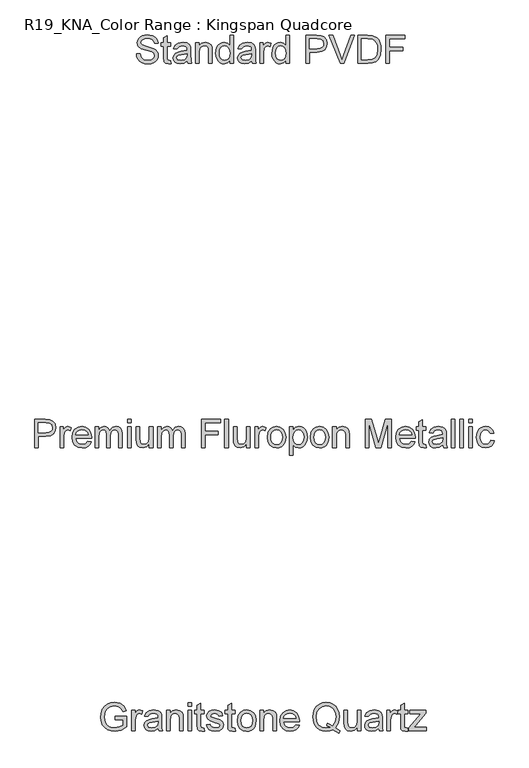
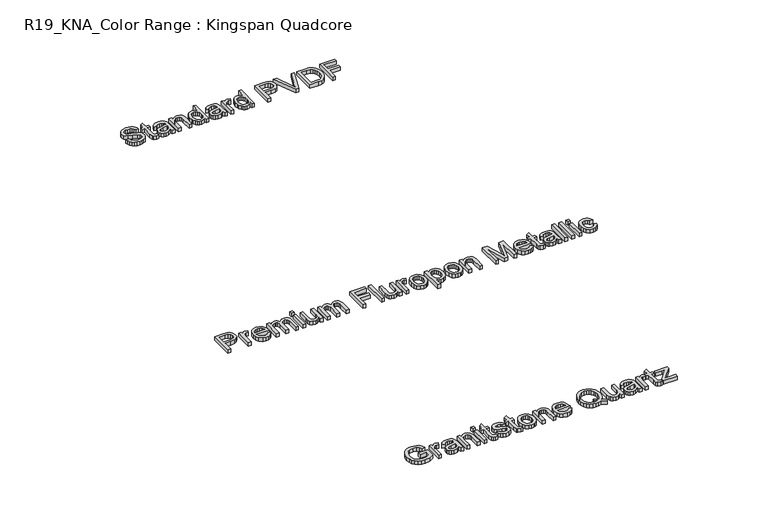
"""IFC4 building model written with IfcOpenShell, lengths in millimetres: proxy geometry, R19_KNA_Color Range : Kingspan Quadcore."""

from ifc_helpers import new_model, si_unit, origin, origin_with_axes, place, context, project, spatial, polyline, outline, extrude, source, transform, mapped, element, save


def r19_kna_color_range_kingspan_quadcore_4278cd54(model_context):
    return source(origin(), model_context, "Body", "SweptSolid", [
        extrude(outline(polyline([(-794.6251096, -3806.1388808), (-794.6251096, -3787.3033226), (-733.4095456, -3787.3033226), (-733.4095456, -3843.6260561), (-763.6310515, -3861.3947564), (-795.5816028, -3867.3544448), (-816.7118249, -3864.9862044), (-835.8094989, -3857.8814834), (-851.67441, -3846.288602), (-863.106343, -3830.4558807), (-870.017926, -3811.4639727), (-872.321787, -3790.3935314), (-870.027123, -3769.1713388), (-863.1431312, -3749.4298712), (-851.95492, -3732.8705829), (-836.747598, -3721.1949281), (-818.2247396, -3714.2695495), (-797.0899189, -3711.96109), (-767.6225711, -3717.313773), (-755.8733399, -3723.7149198), (-746.9659971, -3732.2129938), (-735.5800494, -3757.136999), (-752.9440795, -3762.0298296), (-761.5341241, -3744.6106171), (-776.2126157, -3734.5674386), (-797.3842245, -3730.7966482), (-821.4988893, -3734.8617442), (-837.9064263, -3745.5303221), (-847.6001169, -3760.0432668), (-853.4862288, -3789.6209792), (-851.7157967, -3807.6334014), (-846.4045004, -3822.4544473), (-837.7132883, -3833.9783508), (-825.8031087, -3842.0993458), (-811.8649796, -3846.9140014), (-797.0899189, -3848.5188866), (-771.3197852, -3843.6812384), (-752.2451037, -3833.3621484), (-752.2451037, -3806.1388808), (-794.6251096, -3806.1388808)])), origin_with_axes(), (0.0, 0.0, 1.0), 25.0),
        extrude(outline(polyline([(-705.1562084, -3865.0), (-705.1562084, -3754.3410959), (-688.675095, -3754.3410959), (-688.675095, -3770.7118446), (-676.9764475, -3755.6286828), (-665.2042237, -3751.9866511), (-646.2950891, -3757.7991866), (-652.5858712, -3774.6849702), (-665.8296231, -3770.8222092), (-676.4798068, -3774.5378174), (-683.2672296, -3784.8385133), (-686.3206502, -3806.8378566), (-686.3206502, -3865.0), (-705.1562084, -3865.0)])), origin_with_axes(), (0.0, 0.0, 1.0), 25.0),
        extrude(outline(polyline([(-563.8895222, -3850.8733314), (-582.1548633, -3863.6388366), (-602.3331907, -3867.3544448), (-618.0739416, -3865.1195616), (-629.685217, -3858.4149123), (-636.8451204, -3848.2337781), (-639.2317548, -3835.5694404), (-635.6265113, -3820.6702196), (-626.1535499, -3809.8544889), (-612.9649804, -3803.6740714), (-596.667808, -3800.84138), (-563.9998868, -3794.3666569), (-563.8895222, -3790.1728022), (-565.1863062, -3781.7666986), (-569.0766583, -3776.2668628), (-577.7770675, -3772.1833726), (-589.8987793, -3770.8222092), (-608.9550666, -3774.4458469), (-618.0417519, -3787.3033226), (-636.8773101, -3784.9488778), (-628.7287239, -3766.5547781), (-612.3211869, -3755.7758356), (-587.4707581, -3751.9866511), (-564.6436803, -3755.3343772), (-551.7494164, -3763.7404808), (-545.973669, -3776.5243802), (-545.0539641, -3793.0054935), (-545.0539641, -3816.4395766), (-544.0974709, -3849.1626801), (-540.3450745, -3865.0), (-559.1806327, -3865.0), (-563.8895222, -3850.8733314)]), holes=[polyline([(-563.8895222, -3813.2022151), (-594.276575, -3818.9779624), (-610.4817769, -3822.031383), (-617.8210227, -3826.9977899), (-620.3961967, -3834.2450652), (-614.7859962, -3844.4353965), (-598.323277, -3848.5188866), (-579.2669896, -3844.0123322), (-566.979731, -3833.104631), (-563.9998868, -3818.536504), (-563.8895222, -3813.2022151)])]), origin_with_axes(), (0.0, 0.0, 1.0), 25.0),
        extrude(outline(polyline([(-519.1550716, -3865.0), (-519.1550716, -3754.3410959), (-500.3195134, -3754.3410959), (-500.3195134, -3769.7921396), (-485.9169333, -3756.4380232), (-466.2536407, -3751.9866511), (-448.4665462, -3755.5735005), (-436.3264404, -3764.9912796), (-430.6794518, -3778.8420367), (-429.6861704, -3797.0521955), (-429.6861704, -3865.0), (-448.5217285, -3865.0), (-448.5217285, -3799.5905813), (-450.6922323, -3782.9255269), (-458.3625719, -3774.1147531), (-471.293624, -3770.8222092), (-482.3254854, -3772.6708163), (-491.7294689, -3778.2166373), (-498.1720023, -3788.9312004), (-500.3195134, -3806.2860336), (-500.3195134, -3865.0), (-519.1550716, -3865.0)])), origin_with_axes(), (0.0, 0.0, 1.0), 25.0),
        extrude(outline(polyline([(-403.7872779, -3865.0), (-403.7872779, -3754.3410959), (-384.9517198, -3754.3410959), (-384.9517198, -3865.0), (-403.7872779, -3865.0)])), origin_with_axes(), (0.0, 0.0, 1.0), 25.0),
        extrude(outline(polyline([(-403.7872779, -3733.1510929), (-403.7872779, -3714.3155348), (-384.9517198, -3714.3155348), (-384.9517198, -3733.1510929), (-403.7872779, -3733.1510929)])), origin_with_axes(), (0.0, 0.0, 1.0), 25.0),
        extrude(outline(polyline([(-316.6728214, -3849.2914388), (-314.3183767, -3865.551823), (-328.4082571, -3867.3544448), (-344.1903947, -3864.2274478), (-352.0630694, -3856.0236793), (-354.3439378, -3834.6497354), (-354.3439378, -3773.176654), (-368.4706064, -3773.176654), (-368.4706064, -3754.3410959), (-354.3439378, -3754.3410959), (-354.3439378, -3727.448922), (-335.5083796, -3716.3756739), (-335.5083796, -3754.3410959), (-316.6728214, -3754.3410959), (-316.6728214, -3773.176654), (-335.5083796, -3773.176654), (-335.5083796, -3834.0979124), (-334.5150982, -3843.8099971), (-331.2961308, -3847.2496937), (-324.8765899, -3848.5188866), (-316.6728214, -3849.2914388)])), origin_with_axes(), (0.0, 0.0, 1.0), 25.0),
        extrude(outline(polyline([(-304.9005976, -3832.0377732), (-286.0650394, -3829.6833285), (-283.0943923, -3837.7399442), (-277.3462362, -3843.6628443), (-257.3702438, -3848.5188866), (-238.1668037, -3844.0675145), (-231.9128098, -3833.6196658), (-233.4855053, -3828.8188058), (-238.2035919, -3825.1583799), (-257.590973, -3819.7873028), (-285.9546749, -3810.5718588), (-298.333904, -3799.8113105), (-302.5461528, -3784.6177841), (-299.1616385, -3770.5830859), (-289.9278004, -3759.8593258), (-277.9532415, -3754.2859136), (-261.7480396, -3751.9866511), (-238.8289913, -3755.6838651), (-224.2608643, -3765.6902554), (-217.7861411, -3782.5944331), (-236.6216993, -3784.9488778), (-243.7034277, -3774.5562115), (-260.2765116, -3770.8222092), (-278.3027294, -3774.3906646), (-283.7105947, -3782.7047977), (-281.4665145, -3788.1862394), (-274.4399684, -3792.343306), (-258.2163724, -3796.3532197), (-230.5700405, -3805.2191758), (-217.7309588, -3815.2623543), (-213.0772516, -3831.633103), (-218.5402992, -3849.6593208), (-234.3040427, -3862.7375257), (-257.6277612, -3867.3544448), (-276.6196692, -3865.1287587), (-290.4796234, -3858.4517005), (-299.7318556, -3847.3968465), (-304.9005976, -3832.0377732)])), origin_with_axes(), (0.0, 0.0, 1.0), 25.0),
        extrude(outline(polyline([(-151.8616876, -3849.2914388), (-149.5072428, -3865.551823), (-163.5971233, -3867.3544448), (-179.3792608, -3864.2274478), (-187.2519355, -3856.0236793), (-189.5328039, -3834.6497354), (-189.5328039, -3773.176654), (-203.6594725, -3773.176654), (-203.6594725, -3754.3410959), (-189.5328039, -3754.3410959), (-189.5328039, -3727.448922), (-170.6972458, -3716.3756739), (-170.6972458, -3754.3410959), (-151.8616876, -3754.3410959), (-151.8616876, -3773.176654), (-170.6972458, -3773.176654), (-170.6972458, -3834.0979124), (-169.7039644, -3843.8099971), (-166.4849969, -3847.2496937), (-160.0654561, -3848.5188866), (-151.8616876, -3849.2914388)])), origin_with_axes(), (0.0, 0.0, 1.0), 25.0),
        extrude(outline(polyline([(-137.735019, -3809.6705479), (-133.6607259, -3782.9899062), (-121.4378466, -3764.2371215), (-106.3362907, -3755.0492687), (-88.2548906, -3751.9866511), (-68.4674378, -3755.7160548), (-52.6623076, -3766.904266), (-42.3018309, -3784.6683678), (-38.8483387, -3808.1254435), (-40.375049, -3827.1541397), (-44.9551798, -3841.6394933), (-52.455374, -3852.4874136), (-62.7422743, -3860.6038102), (-74.960555, -3865.6667861), (-88.2548906, -3867.3544448), (-108.2814668, -3863.6388366), (-124.0682029, -3852.4920122), (-134.318315, -3834.3554298), (-137.735019, -3809.6705479)]), holes=[polyline([(-118.8994608, -3809.6337597), (-116.71976, -3826.6804917), (-110.1806576, -3838.825196), (-100.3398142, -3846.095464), (-88.2548906, -3848.5188866), (-76.2251494, -3846.0816684), (-66.4027001, -3838.7700137), (-59.8635977, -3826.464361), (-57.6838968, -3809.0451485), (-59.8773932, -3792.4950573), (-66.4578824, -3780.5158998), (-76.2941273, -3773.2456319), (-88.2548906, -3770.8222092), (-100.3398142, -3773.2364348), (-110.1806576, -3780.4791116), (-116.71976, -3792.5962248), (-118.8994608, -3809.6337597)])]), origin_with_axes(), (0.0, 0.0, 1.0), 25.0),
        extrude(outline(polyline([(-17.6583358, -3865.0), (-17.6583358, -3754.3410959), (1.1772224, -3754.3410959), (1.1772224, -3769.7921396), (15.5798025, -3756.4380232), (35.2430951, -3751.9866511), (53.0301896, -3755.5735005), (65.1702954, -3764.9912796), (70.8172841, -3778.8420367), (71.8105655, -3797.0521955), (71.8105655, -3865.0), (52.9750073, -3865.0), (52.9750073, -3799.5905813), (50.8045035, -3782.9255269), (43.1341639, -3774.1147531), (30.2031118, -3770.8222092), (19.1712505, -3772.6708163), (9.767267, -3778.2166373), (3.3247335, -3788.9312004), (1.1772224, -3806.2860336), (1.1772224, -3865.0), (-17.6583358, -3865.0)])), origin_with_axes(), (0.0, 0.0, 1.0), 25.0),
        extrude(outline(polyline([(175.1854061, -3832.0377732), (193.6530823, -3834.392218), (186.9990167, -3848.3073545), (176.3810226, -3858.7092179), (162.0382233, -3865.193138), (144.2097421, -3867.3544448), (122.1092312, -3863.625041), (105.103886, -3852.4368299), (94.2605642, -3834.5163782), (90.6461236, -3810.5902529), (94.2973524, -3785.8593858), (105.2510388, -3767.3641185), (122.0264578, -3755.8310179), (143.1428843, -3751.9866511), (163.6017218, -3755.8218209), (179.9494779, -3767.3273303), (190.6686396, -3785.7858094), (194.2416935, -3810.4798883), (194.1313289, -3815.5566598), (109.4816818, -3815.5566598), (112.7420359, -3829.6557373), (120.3158065, -3840.0208125), (131.2465003, -3846.3943681), (144.5776241, -3848.5188866), (163.0453003, -3844.5825493), (175.1854061, -3832.0377732)]), holes=[polyline([(109.4816818, -3796.7211017), (175.4061353, -3796.7211017), (172.8585525, -3786.7698937), (167.8645544, -3779.6513771), (156.8832768, -3773.0295012), (143.0693079, -3770.8222092), (130.3727806, -3772.5834443), (119.8743481, -3777.8671494), (112.576489, -3786.1031076), (109.4816818, -3796.7211017)])]), origin_with_axes(), (0.0, 0.0, 1.0), 25.0),
        extrude(outline(polyline([(387.4901055, -3846.936994), (410.8506122, -3862.6455552), (405.7738407, -3876.4411301), (374.7613885, -3858.8195825), (357.332979, -3865.2207292), (338.15713, -3867.3544448), (318.8893105, -3864.8942339), (301.479295, -3857.5136014), (286.8973725, -3845.6769982), (276.1138315, -3829.8488754), (269.4505688, -3810.8983541), (267.2294813, -3789.6945556), (269.4459703, -3768.472363), (276.0954374, -3749.2459302), (286.8375916, -3733.1924797), (301.3321422, -3721.4892337), (318.6777783, -3714.3431259), (337.973189, -3711.96109), (357.4203509, -3714.3983082), (374.853359, -3721.7099629), (389.324917, -3733.4086103), (399.8877288, -3749.0068069), (406.3440578, -3767.6768182), (408.4961674, -3788.5909096), (403.2722431, -3821.5163482), (396.7147465, -3835.1739672), (387.4901055, -3846.936994)]), holes=[polyline([(343.3442661, -3821.8842302), (359.181586, -3827.8715096), (371.9654853, -3836.1948398), (385.2368283, -3816.7706704), (389.6606093, -3789.5474028), (388.0971108, -3772.9697204), (383.4066154, -3758.6269211), (375.7040861, -3746.8822884), (365.1044861, -3738.0991058), (352.3251853, -3732.6222626), (338.0835536, -3730.7966482), (317.5557382, -3734.4892637), (300.8538957, -3745.5671103), (289.7622535, -3763.9750056), (286.0650394, -3789.6577674), (289.7208668, -3814.7887062), (300.6883488, -3833.3069661), (317.3396076, -3844.7159065), (338.0467654, -3848.5188866), (358.3170633, -3844.6561257), (338.4882238, -3836.3052044), (343.3442661, -3821.8842302)])]), origin_with_axes(), (0.0, 0.0, 1.0), 25.0),
        extrude(outline(polyline([(505.028403, -3865.0), (505.028403, -3845.9805008), (490.276335, -3862.0109588), (471.0361066, -3867.3544448), (453.3225886, -3863.6020484), (441.1089063, -3854.1842693), (435.4987059, -3840.3151181), (434.3950599, -3822.8039352), (434.3950599, -3754.3410959), (453.2306181, -3754.3410959), (453.2306181, -3813.9379791), (454.3710522, -3833.1414192), (461.8206626, -3844.4170024), (475.8553608, -3848.5188866), (491.5823161, -3844.3250319), (501.9749824, -3832.9022959), (505.028403, -3811.9146281), (505.028403, -3754.3410959), (523.8639611, -3754.3410959), (523.8639611, -3865.0), (505.028403, -3865.0)])), origin_with_axes(), (0.0, 0.0, 1.0), 25.0),
        extrude(outline(polyline([(620.3961967, -3850.8733314), (602.1308556, -3863.6388366), (581.9525282, -3867.3544448), (566.2117773, -3865.1195616), (554.6005018, -3858.4149123), (547.4405985, -3848.2337781), (545.0539641, -3835.5694404), (548.6592076, -3820.6702196), (558.132169, -3809.8544889), (571.3207385, -3803.6740714), (587.6179109, -3800.84138), (620.2858321, -3794.3666569), (620.3961967, -3790.1728022), (619.0994126, -3781.7666986), (615.2090605, -3776.2668628), (606.5086513, -3772.1833726), (594.3869396, -3770.8222092), (575.3306523, -3774.4458469), (566.243967, -3787.3033226), (547.4084088, -3784.9488778), (555.556995, -3766.5547781), (571.964532, -3755.7758356), (596.8149608, -3751.9866511), (619.6420386, -3755.3343772), (632.5363025, -3763.7404808), (638.3120498, -3776.5243802), (639.2317548, -3793.0054935), (639.2317548, -3816.4395766), (640.188248, -3849.1626801), (643.9406444, -3865.0), (625.1050862, -3865.0), (620.3961967, -3850.8733314)]), holes=[polyline([(620.3961967, -3813.2022151), (590.0091439, -3818.9779624), (573.803942, -3822.031383), (566.4646962, -3826.9977899), (563.8895222, -3834.2450652), (569.4997226, -3844.4353965), (585.9624419, -3848.5188866), (605.0187293, -3844.0123322), (617.3059879, -3833.104631), (620.2858321, -3818.536504), (620.3961967, -3813.2022151)])]), origin_with_axes(), (0.0, 0.0, 1.0), 25.0),
        extrude(outline(polyline([(665.1306473, -3865.0), (665.1306473, -3754.3410959), (681.6117607, -3754.3410959), (681.6117607, -3770.7118446), (693.3104081, -3755.6286828), (705.082632, -3751.9866511), (723.9917665, -3757.7991866), (717.7009844, -3774.6849702), (704.4572326, -3770.8222092), (693.8070488, -3774.5378174), (687.019626, -3784.8385133), (683.9662054, -3806.8378566), (683.9662054, -3865.0), (665.1306473, -3865.0)])), origin_with_axes(), (0.0, 0.0, 1.0), 25.0),
        extrude(outline(polyline([(775.7895514, -3849.2914388), (778.1439962, -3865.551823), (764.0541158, -3867.3544448), (748.2719782, -3864.2274478), (740.3993035, -3856.0236793), (738.1184351, -3834.6497354), (738.1184351, -3773.176654), (723.9917665, -3773.176654), (723.9917665, -3757.7991866), (723.9917665, -3754.3410959), (738.1184351, -3754.3410959), (738.1184351, -3727.448922), (756.9539933, -3716.3756739), (756.9539933, -3754.3410959), (775.7895514, -3754.3410959), (775.7895514, -3773.176654), (756.9539933, -3773.176654), (756.9539933, -3834.0979124), (757.9472747, -3843.8099971), (761.1662421, -3847.2496937), (767.5857829, -3848.5188866), (775.7895514, -3849.2914388)])), origin_with_axes(), (0.0, 0.0, 1.0), 25.0),
        extrude(outline(polyline([(782.8528857, -3865.0), (782.8528857, -3847.2680878), (847.8576343, -3773.176654), (828.6174059, -3773.176654), (787.5617753, -3773.176654), (787.5617753, -3754.3410959), (874.6762317, -3754.3410959), (874.6762317, -3770.3439626), (817.0291231, -3836.0844752), (808.1999552, -3846.1644418), (829.9785693, -3846.1644418), (877.0306765, -3846.1644418), (877.0306765, -3865.0), (782.8528857, -3865.0)])), origin_with_axes(), (0.0, 0.0, 1.0), 25.0),
        extrude(outline(polyline([(-1225.4885023, -2345.0), (-1225.4885023, -2194.3155348), (-1169.6440155, -2194.3155348), (-1147.1296374, -2195.7502746), (-1128.8275081, -2202.7952148), (-1116.9633138, -2217.3633418), (-1112.4751534, -2237.9095512), (-1115.5055813, -2255.6690545), (-1124.5968652, -2270.4671078), (-1141.5976119, -2280.4551039), (-1168.3564285, -2283.784436), (-1206.6529442, -2283.784436), (-1206.6529442, -2345.0), (-1225.4885023, -2345.0)]), holes=[polyline([(-1206.6529442, -2264.9488778), (-1167.2527825, -2264.9488778), (-1150.5509399, -2263.2198325), (-1139.5144801, -2258.0326963), (-1133.3616537, -2249.7093662), (-1131.3107116, -2238.5717388), (-1136.1483598, -2222.9735422), (-1148.8586827, -2214.4386799), (-1167.6942409, -2213.1510929), (-1206.6529442, -2213.1510929), (-1206.6529442, -2264.9488778)])]), origin_with_axes(), (0.0, 0.0, 1.0), 25.0),
        extrude(outline(polyline([(-1088.9307057, -2345.0), (-1088.9307057, -2234.3410959), (-1072.4495923, -2234.3410959), (-1072.4495923, -2250.7118446), (-1060.7509449, -2235.6286828), (-1048.978721, -2231.9866511), (-1030.0695865, -2237.7991866), (-1036.3603686, -2254.6849702), (-1049.6041204, -2250.8222092), (-1060.2543042, -2254.5378174), (-1067.041727, -2264.8385133), (-1070.0951476, -2286.8378566), (-1070.0951476, -2345.0), (-1088.9307057, -2345.0)])), origin_with_axes(), (0.0, 0.0, 1.0), 25.0),
        extrude(outline(polyline([(-940.8214145, -2312.0377732), (-922.3537383, -2314.392218), (-929.0078039, -2328.3073545), (-939.625798, -2338.7092179), (-953.9685973, -2345.193138), (-971.7970785, -2347.3544448), (-993.8975893, -2343.625041), (-1010.9029345, -2332.4368299), (-1021.7462564, -2314.5163782), (-1025.360697, -2290.5902529), (-1021.7094682, -2265.8593858), (-1010.7557817, -2247.3641185), (-993.9803628, -2235.8310179), (-972.8639362, -2231.9866511), (-952.4050988, -2235.8218209), (-936.0573426, -2247.3273303), (-925.338181, -2265.7858094), (-921.7651271, -2290.4798883), (-921.8754917, -2295.5566598), (-1006.5251388, -2295.5566598), (-1003.2647846, -2309.6557373), (-995.691014, -2320.0208125), (-984.7603203, -2326.3943681), (-971.4291965, -2328.5188866), (-952.9615203, -2324.5825493), (-940.8214145, -2312.0377732)]), holes=[polyline([(-1006.5251388, -2276.7211017), (-940.6006853, -2276.7211017), (-943.1482681, -2266.7698937), (-948.1422662, -2259.6513771), (-959.1235437, -2253.0295012), (-972.9375126, -2250.8222092), (-985.63404, -2252.5834443), (-996.1324724, -2257.8671494), (-1003.4303315, -2266.1031076), (-1006.5251388, -2276.7211017)])]), origin_with_axes(), (0.0, 0.0, 1.0), 25.0),
        extrude(outline(polyline([(-902.929569, -2345.0), (-902.929569, -2234.3410959), (-884.0940108, -2234.3410959), (-884.0940108, -2252.5512546), (-871.1445646, -2237.6336397), (-852.7136766, -2231.9866511), (-842.2382368, -2233.4259894), (-833.8413303, -2237.7440043), (-823.467058, -2253.8756298), (-808.7701723, -2237.4588958), (-790.2105256, -2231.9866511), (-776.0516674, -2234.2629209), (-765.5808261, -2241.0917305), (-759.1107015, -2252.6570207), (-756.9539933, -2269.1427326), (-756.9539933, -2345.0), (-775.7895514, -2345.0), (-775.7895514, -2277.2361365), (-777.5369909, -2261.5091812), (-783.8645612, -2253.7652652), (-794.6251096, -2250.8222092), (-804.8292364, -2252.7076045), (-813.147968, -2258.3637901), (-818.6799935, -2268.1770424), (-820.524002, -2282.5336372), (-820.524002, -2345.0), (-839.3595602, -2345.0), (-839.3595602, -2275.1392091), (-843.7189618, -2256.8922622), (-849.4717165, -2252.3397225), (-858.0111774, -2250.8222092), (-871.953905, -2254.8689112), (-881.2245312, -2266.7147114), (-884.0940108, -2289.1923013), (-884.0940108, -2345.0), (-902.929569, -2345.0)])), origin_with_axes(), (0.0, 0.0, 1.0), 25.0),
        extrude(outline(polyline([(-728.700656, -2345.0), (-728.700656, -2234.3410959), (-709.8650979, -2234.3410959), (-709.8650979, -2345.0), (-728.700656, -2345.0)])), origin_with_axes(), (0.0, 0.0, 1.0), 25.0),
        extrude(outline(polyline([(-728.700656, -2213.1510929), (-728.700656, -2194.3155348), (-709.8650979, -2194.3155348), (-709.8650979, -2213.1510929), (-728.700656, -2213.1510929)])), origin_with_axes(), (0.0, 0.0, 1.0), 25.0),
        extrude(outline(polyline([(-610.9784176, -2345.0), (-610.9784176, -2325.9805008), (-625.7304856, -2342.0109588), (-644.9707139, -2347.3544448), (-662.684232, -2343.6020484), (-674.8979143, -2334.1842693), (-680.5081147, -2320.3151181), (-681.6117607, -2302.8039352), (-681.6117607, -2234.3410959), (-662.7762025, -2234.3410959), (-662.7762025, -2293.9379791), (-661.6357683, -2313.1414192), (-654.1861579, -2324.4170024), (-640.1514598, -2328.5188866), (-624.4245045, -2324.3250319), (-614.0318381, -2312.9022959), (-610.9784176, -2291.9146281), (-610.9784176, -2234.3410959), (-592.1428594, -2234.3410959), (-592.1428594, -2345.0), (-610.9784176, -2345.0)])), origin_with_axes(), (0.0, 0.0, 1.0), 25.0),
        extrude(outline(polyline([(-566.243967, -2345.0), (-566.243967, -2234.3410959), (-547.4084088, -2234.3410959), (-547.4084088, -2252.5512546), (-534.4589626, -2237.6336397), (-516.0280746, -2231.9866511), (-505.5526348, -2233.4259894), (-497.1557283, -2237.7440043), (-486.781456, -2253.8756298), (-472.0845703, -2237.4588958), (-453.5249237, -2231.9866511), (-439.3660654, -2234.2629209), (-428.8952241, -2241.0917305), (-422.4250995, -2252.6570207), (-420.2683913, -2269.1427326), (-420.2683913, -2345.0), (-439.1039494, -2345.0), (-439.1039494, -2277.2361365), (-440.8513889, -2261.5091812), (-447.1789592, -2253.7652652), (-457.9395076, -2250.8222092), (-468.1436344, -2252.7076045), (-476.4623661, -2258.3637901), (-481.9943916, -2268.1770424), (-483.8384001, -2282.5336372), (-483.8384001, -2345.0), (-502.6739582, -2345.0), (-502.6739582, -2275.1392091), (-507.0333599, -2256.8922622), (-512.7861146, -2252.3397225), (-521.3255754, -2250.8222092), (-535.268303, -2254.8689112), (-544.5389293, -2266.7147114), (-547.4084088, -2289.1923013), (-547.4084088, -2345.0), (-566.243967, -2345.0)])), origin_with_axes(), (0.0, 0.0, 1.0), 25.0),
        extrude(outline(polyline([(-330.7994901, -2345.0), (-330.7994901, -2194.3155348), (-229.558365, -2194.3155348), (-229.558365, -2213.1510929), (-311.9639319, -2213.1510929), (-311.9639319, -2257.8855435), (-241.3305888, -2257.8855435), (-241.3305888, -2276.7211017), (-311.9639319, -2276.7211017), (-311.9639319, -2345.0), (-330.7994901, -2345.0)])), origin_with_axes(), (0.0, 0.0, 1.0), 25.0),
        extrude(outline(polyline([(-206.0139173, -2345.0), (-206.0139173, -2194.3155348), (-187.1783591, -2194.3155348), (-187.1783591, -2345.0), (-206.0139173, -2345.0)])), origin_with_axes(), (0.0, 0.0, 1.0), 25.0),
        extrude(outline(polyline([(-88.2916788, -2345.0), (-88.2916788, -2325.9805008), (-103.0437468, -2342.0109588), (-122.2839752, -2347.3544448), (-139.9974933, -2343.6020484), (-152.2111755, -2334.1842693), (-157.8213759, -2320.3151181), (-158.9250219, -2302.8039352), (-158.9250219, -2234.3410959), (-140.0894638, -2234.3410959), (-140.0894638, -2293.9379791), (-138.9490296, -2313.1414192), (-131.4994192, -2324.4170024), (-117.4647211, -2328.5188866), (-101.7377658, -2324.3250319), (-91.3450994, -2312.9022959), (-88.2916788, -2291.9146281), (-88.2916788, -2234.3410959), (-69.4561207, -2234.3410959), (-69.4561207, -2345.0), (-88.2916788, -2345.0)])), origin_with_axes(), (0.0, 0.0, 1.0), 25.0),
        extrude(outline(polyline([(-43.5572282, -2345.0), (-43.5572282, -2234.3410959), (-27.0761148, -2234.3410959), (-27.0761148, -2250.7118446), (-15.3774674, -2235.6286828), (-3.6052436, -2231.9866511), (15.303891, -2237.7991866), (9.0131089, -2254.6849702), (-4.2306429, -2250.8222092), (-14.8808267, -2254.5378174), (-21.6682495, -2264.8385133), (-24.7216701, -2286.8378566), (-24.7216701, -2345.0), (-43.5572282, -2345.0)])), origin_with_axes(), (0.0, 0.0, 1.0), 25.0),
        extrude(outline(polyline([(22.3672253, -2289.6705479), (26.4415184, -2262.9899062), (38.6643977, -2244.2371215), (53.7659536, -2235.0492687), (71.8473537, -2231.9866511), (91.6348065, -2235.7160548), (107.4399367, -2246.904266), (117.8004134, -2264.6683678), (121.2539056, -2288.1254435), (119.7271953, -2307.1541397), (115.1470645, -2321.6394933), (107.6468703, -2332.4874136), (97.35997, -2340.6038102), (85.1416893, -2345.6667861), (71.8473537, -2347.3544448), (51.8207775, -2343.6388366), (36.0340414, -2332.4920122), (25.7839293, -2314.3554298), (22.3672253, -2289.6705479)]), holes=[polyline([(41.2027835, -2289.6337597), (43.3824843, -2306.6804917), (49.9215867, -2318.825196), (59.7624301, -2326.095464), (71.8473537, -2328.5188866), (83.8770949, -2326.0816684), (93.6995442, -2318.7700137), (100.2386466, -2306.464361), (102.4183475, -2289.0451485), (100.2248511, -2272.4950573), (93.6443619, -2260.5158998), (83.808117, -2253.2456319), (71.8473537, -2250.8222092), (59.7624301, -2253.2364348), (49.9215867, -2260.4791116), (43.3824843, -2272.5962248), (41.2027835, -2289.6337597)])]), origin_with_axes(), (0.0, 0.0, 1.0), 25.0),
        extrude(outline(polyline([(142.4439085, -2387.3800058), (142.4439085, -2234.3410959), (161.2794667, -2234.3410959), (161.2794667, -2252.808772), (174.3024893, -2237.1921813), (191.8872487, -2231.9866511), (204.6251628, -2233.807667), (215.7627902, -2239.2707146), (224.8310814, -2248.0447002), (231.3609868, -2259.7985299), (236.6216993, -2288.8244193), (235.1363757, -2304.9330522), (230.6804051, -2319.3402308), (223.3963416, -2331.3147898), (213.4267395, -2340.1255636), (201.815464, -2345.5472245), (189.6063803, -2347.3544448), (173.2172374, -2342.5167965), (161.2794667, -2330.2847202), (161.2794667, -2387.3800058), (142.4439085, -2387.3800058)]), holes=[polyline([(161.2794667, -2290.5534647), (163.3166132, -2307.4392483), (169.4280529, -2319.2482603), (178.4457603, -2326.20123), (189.2017101, -2328.5188866), (200.1324039, -2326.1184566), (209.3800376, -2318.9171665), (215.6846152, -2306.6758932), (217.7861411, -2289.1555131), (215.735199, -2272.3617001), (209.5823727, -2260.3871411), (200.5784608, -2253.2134422), (189.9742623, -2250.8222092), (179.3286771, -2253.3651935), (169.9798759, -2260.9941464), (163.454569, -2273.4699446), (161.2794667, -2290.5534647)])]), origin_with_axes(), (0.0, 0.0, 1.0), 25.0),
        extrude(outline(polyline([(253.1028127, -2289.6705479), (257.1771058, -2262.9899062), (269.3999851, -2244.2371215), (284.501541, -2235.0492687), (302.582941, -2231.9866511), (322.3703938, -2235.7160548), (338.1755241, -2246.904266), (348.5360008, -2264.6683678), (351.989493, -2288.1254435), (350.4627827, -2307.1541397), (345.8826519, -2321.6394933), (338.3824577, -2332.4874136), (328.0955574, -2340.6038102), (315.8772766, -2345.6667861), (302.582941, -2347.3544448), (282.5563649, -2343.6388366), (266.7696288, -2332.4920122), (256.5195167, -2314.3554298), (253.1028127, -2289.6705479)]), holes=[polyline([(271.9383708, -2289.6337597), (274.1180717, -2306.6804917), (280.6571741, -2318.825196), (290.4980175, -2326.095464), (302.582941, -2328.5188866), (314.6126823, -2326.0816684), (324.4351315, -2318.7700137), (330.974234, -2306.464361), (333.1539348, -2289.0451485), (330.9604384, -2272.4950573), (324.3799492, -2260.5158998), (314.5437044, -2253.2456319), (302.582941, -2250.8222092), (290.4980175, -2253.2364348), (280.6571741, -2260.4791116), (274.1180717, -2272.5962248), (271.9383708, -2289.6337597)])]), origin_with_axes(), (0.0, 0.0, 1.0), 25.0),
        extrude(outline(polyline([(373.1794959, -2345.0), (373.1794959, -2234.3410959), (392.0150541, -2234.3410959), (392.0150541, -2249.7921396), (406.4176342, -2236.4380232), (426.0809268, -2231.9866511), (443.8680213, -2235.5735005), (456.0081271, -2244.9912796), (461.6551157, -2258.8420367), (462.6483971, -2277.0521955), (462.6483971, -2345.0), (443.812839, -2345.0), (443.812839, -2279.5905813), (441.6423352, -2262.9255269), (433.9719956, -2254.1147531), (421.0409435, -2250.8222092), (410.0090821, -2252.6708163), (400.6050986, -2258.2166373), (394.1625652, -2268.9312004), (392.0150541, -2286.2860336), (392.0150541, -2345.0), (373.1794959, -2345.0)])), origin_with_axes(), (0.0, 0.0, 1.0), 25.0),
        extrude(outline(polyline([(549.7628536, -2345.0), (549.7628536, -2194.3155348), (582.1732574, -2194.3155348), (613.0017686, -2300.5230668), (619.2189743, -2322.7063511), (625.9512148, -2298.6836568), (656.2646912, -2194.3155348), (688.675095, -2194.3155348), (688.675095, -2345.0), (669.8395368, -2345.0), (669.8395368, -2213.1510929), (631.9844795, -2345.0), (606.453469, -2345.0), (568.5984117, -2213.1510929), (568.5984117, -2345.0), (549.7628536, -2345.0)])), origin_with_axes(), (0.0, 0.0, 1.0), 25.0),
        extrude(outline(polyline([(796.7588252, -2312.0377732), (815.2265013, -2314.392218), (808.5724357, -2328.3073545), (797.9544416, -2338.7092179), (783.6116424, -2345.193138), (765.7831612, -2347.3544448), (743.6826503, -2343.625041), (726.6773051, -2332.4368299), (715.8339833, -2314.5163782), (712.2195427, -2290.5902529), (715.8707715, -2265.8593858), (726.8244579, -2247.3641185), (743.5998769, -2235.8310179), (764.7163034, -2231.9866511), (785.1751408, -2235.8218209), (801.522897, -2247.3273303), (812.2420586, -2265.7858094), (815.8151125, -2290.4798883), (815.7047479, -2295.5566598), (731.0551008, -2295.5566598), (734.315455, -2309.6557373), (741.8892256, -2320.0208125), (752.8199194, -2326.3943681), (766.1510432, -2328.5188866), (784.6187193, -2324.5825493), (796.7588252, -2312.0377732)]), holes=[polyline([(731.0551008, -2276.7211017), (796.9795544, -2276.7211017), (794.4319715, -2266.7698937), (789.4379734, -2259.6513771), (778.4566959, -2253.0295012), (764.642727, -2250.8222092), (751.9461996, -2252.5834443), (741.4477672, -2257.8671494), (734.1499081, -2266.1031076), (731.0551008, -2276.7211017)])]), origin_with_axes(), (0.0, 0.0, 1.0), 25.0),
        extrude(outline(polyline([(874.6762317, -2329.2914388), (877.0306765, -2345.551823), (862.9407961, -2347.3544448), (847.1586585, -2344.2274478), (839.2859838, -2336.0236793), (837.0051154, -2314.6497354), (837.0051154, -2253.176654), (822.8784468, -2253.176654), (822.8784468, -2234.3410959), (837.0051154, -2234.3410959), (837.0051154, -2207.448922), (855.8406736, -2196.3756739), (855.8406736, -2234.3410959), (874.6762317, -2234.3410959), (874.6762317, -2253.176654), (855.8406736, -2253.176654), (855.8406736, -2314.0979124), (856.833955, -2323.8099971), (860.0529224, -2327.2496937), (866.4724632, -2328.5188866), (874.6762317, -2329.2914388)])), origin_with_axes(), (0.0, 0.0, 1.0), 25.0),
        extrude(outline(polyline([(964.145133, -2330.8733314), (945.8797919, -2343.6388366), (925.7014645, -2347.3544448), (909.9607136, -2345.1195616), (898.3494381, -2338.4149123), (891.1895348, -2328.2337781), (888.8029003, -2315.5694404), (892.4081439, -2300.6702196), (901.8811053, -2289.8544889), (915.0696748, -2283.6740714), (931.3668472, -2280.84138), (964.0347684, -2274.3666569), (964.145133, -2270.1728022), (962.8483489, -2261.7666986), (958.9579968, -2256.2668628), (950.2575876, -2252.1833726), (938.1358759, -2250.8222092), (919.0795886, -2254.4458469), (909.9929033, -2267.3033226), (891.1573451, -2264.9488778), (899.3059313, -2246.5547781), (915.7134683, -2235.7758356), (940.5638971, -2231.9866511), (963.3909749, -2235.3343772), (976.2852388, -2243.7404808), (982.0609861, -2256.5243802), (982.9806911, -2273.0054935), (982.9806911, -2296.4395766), (983.9371843, -2329.1626801), (987.6895807, -2345.0), (968.8540225, -2345.0), (964.145133, -2330.8733314)]), holes=[polyline([(964.145133, -2293.2022151), (933.7580802, -2298.9779624), (917.5528783, -2302.031383), (910.2136325, -2306.9977899), (907.6384585, -2314.2450652), (913.2486589, -2324.4353965), (929.7113782, -2328.5188866), (948.7676656, -2324.0123322), (961.0549242, -2313.104631), (964.0347684, -2298.536504), (964.145133, -2293.2022151)])]), origin_with_axes(), (0.0, 0.0, 1.0), 25.0),
        extrude(outline(polyline([(1008.8795836, -2345.0), (1008.8795836, -2194.3155348), (1027.7151417, -2194.3155348), (1027.7151417, -2345.0), (1008.8795836, -2345.0)])), origin_with_axes(), (0.0, 0.0, 1.0), 25.0),
        extrude(outline(polyline([(1055.968479, -2345.0), (1055.968479, -2194.3155348), (1074.8040371, -2194.3155348), (1074.8040371, -2345.0), (1055.968479, -2345.0)])), origin_with_axes(), (0.0, 0.0, 1.0), 25.0),
        extrude(outline(polyline([(1103.0573743, -2213.1510929), (1103.0573743, -2194.3155348), (1121.8929325, -2194.3155348), (1121.8929325, -2213.1510929), (1103.0573743, -2213.1510929)])), origin_with_axes(), (0.0, 0.0, 1.0), 25.0),
        extrude(outline(polyline([(1103.0573743, -2345.0), (1103.0573743, -2234.3410959), (1121.8929325, -2234.3410959), (1121.8929325, -2345.0), (1103.0573743, -2345.0)])), origin_with_axes(), (0.0, 0.0, 1.0), 25.0),
        extrude(outline(polyline([(1220.7796128, -2304.9744389), (1239.6151709, -2307.3288837), (1234.3636555, -2324.08131), (1224.4952209, -2336.7410492), (1210.9387694, -2344.7010959), (1194.6232029, -2347.3544448), (1174.5874298, -2343.6526322), (1158.9202553, -2332.5471945), (1148.808099, -2314.5255752), (1145.4373802, -2290.0752181), (1146.8767185, -2273.3135947), (1151.1947334, -2258.7868544), (1158.4604028, -2247.0560173), (1168.7427046, -2238.6821034), (1181.0437588, -2233.6605142), (1194.3656855, -2231.9866511), (1210.2811804, -2234.2859136), (1223.0052989, -2241.183701), (1232.1333709, -2252.3121313), (1237.2607262, -2267.3033226), (1218.425168, -2269.6577674), (1209.6879706, -2255.5494929), (1194.5128383, -2250.8222092), (1182.3405428, -2253.1490629), (1172.6790419, -2260.1296237), (1166.3744642, -2272.1409709), (1164.2729383, -2289.5601833), (1166.328479, -2307.2139206), (1172.4951009, -2319.2666544), (1181.9818579, -2326.2058286), (1193.9978035, -2328.5188866), (1203.7512749, -2327.0749498), (1211.7481098, -2322.7431393), (1217.5652439, -2315.4130905), (1220.7796128, -2304.9744389)])), origin_with_axes(), (0.0, 0.0, 1.0), 25.0),
        extrude(outline(polyline([(-680.4600994, -233.2022151), (-661.6245412, -233.2022151), (-655.5544883, -252.0561673), (-640.7288439, -263.975544), (-618.1408894, -268.5188866), (-598.4592026, -265.07919), (-585.7488797, -255.6246227), (-581.5734191, -242.9878762), (-584.700416, -231.2340464), (-597.5027094, -222.68079), (-624.9283122, -215.488697), (-654.4508423, -206.1996766), (-670.4721032, -192.1833726), (-675.7512098, -173.4581791), (-674.1187335, -162.4263177), (-669.2213044, -152.1394174), (-661.1876813, -143.4206142), (-650.146623, -137.0930438), (-622.2243795, -131.96109), (-592.4259379, -137.3321671), (-581.003202, -143.9632401), (-572.5603102, -153.1143047), (-567.2168242, -164.2151439), (-565.0923057, -176.6955406), (-583.9278638, -176.6955406), (-587.3859546, -165.4567457), (-594.5964417, -157.3449477), (-605.8628278, -152.433723), (-621.4886155, -150.7966482), (-637.4822853, -152.4153289), (-648.4543658, -157.2713713), (-654.8003302, -164.417479), (-656.9156517, -172.9063561), (-655.4165325, -180.1444343), (-650.9191751, -185.9661669), (-620.1642403, -196.487592), (-586.8341316, -205.9421592), (-576.0965758, -212.7755673), (-568.6055787, -221.209262), (-564.2047904, -231.151273), (-562.7378609, -242.5096296), (-564.4255196, -254.120905), (-569.4884955, -265.0424018), (-577.7198552, -274.4417867), (-588.9126649, -281.4867269), (-602.3725474, -285.8875153), (-617.4051254, -287.3544448), (-635.859006, -285.7725522), (-651.0479338, -281.0268745), (-663.146653, -273.0990175), (-672.3299073, -261.9705871), (-678.2252162, -248.4141356), (-680.4600994, -233.2022151)])), origin_with_axes(), (0.0, 0.0, 1.0), 25.0),
        extrude(outline(polyline([(-496.8134074, -269.2914388), (-494.4589626, -285.551823), (-508.548843, -287.3544448), (-524.3309806, -284.2274478), (-532.2036553, -276.0236793), (-534.4845237, -254.6497354), (-534.4845237, -193.176654), (-548.6111923, -193.176654), (-548.6111923, -174.3410959), (-534.4845237, -174.3410959), (-534.4845237, -147.448922), (-515.6489655, -136.3756739), (-515.6489655, -174.3410959), (-496.8134074, -174.3410959), (-496.8134074, -193.176654), (-515.6489655, -193.176654), (-515.6489655, -254.0979124), (-514.6556841, -263.8099971), (-511.4367167, -267.2496937), (-505.0171759, -268.5188866), (-496.8134074, -269.2914388)])), origin_with_axes(), (0.0, 0.0, 1.0), 25.0),
        extrude(outline(polyline([(-407.3445061, -270.8733314), (-425.6098472, -283.6388366), (-445.7881746, -287.3544448), (-461.5289255, -285.1195616), (-473.140201, -278.4149123), (-480.3001043, -268.2337781), (-482.6867387, -255.5694404), (-479.0814952, -240.6702196), (-469.6085338, -229.8544889), (-456.4199643, -223.6740714), (-440.1227919, -220.84138), (-407.4548707, -214.3666569), (-407.3445061, -210.1728022), (-408.6412902, -201.7666986), (-412.5316423, -196.2668628), (-421.2320515, -192.1833726), (-433.3537632, -190.8222092), (-452.4100505, -194.4458469), (-461.4967358, -207.3033226), (-480.332294, -204.9488778), (-472.1837078, -186.5547781), (-455.7761708, -175.7758356), (-430.925742, -171.9866511), (-408.0986642, -175.3343772), (-395.2044003, -183.7404808), (-389.428653, -196.5243802), (-388.508948, -213.0054935), (-388.508948, -236.4395766), (-387.5524548, -269.1626801), (-383.8000584, -285.0), (-402.6356166, -285.0), (-407.3445061, -270.8733314)]), holes=[polyline([(-407.3445061, -233.2022151), (-437.7315589, -238.9779624), (-453.9367608, -242.031383), (-461.2760066, -246.9977899), (-463.8511806, -254.2450652), (-458.2409802, -264.4353965), (-441.7782609, -268.5188866), (-422.7219735, -264.0123322), (-410.4347149, -253.104631), (-407.4548707, -238.536504), (-407.3445061, -233.2022151)])]), origin_with_axes(), (0.0, 0.0, 1.0), 25.0),
        extrude(outline(polyline([(-362.6100555, -285.0), (-362.6100555, -174.3410959), (-343.7744974, -174.3410959), (-343.7744974, -189.7921396), (-329.3719173, -176.4380232), (-309.7086246, -171.9866511), (-291.9215301, -175.5735005), (-279.7814243, -184.9912796), (-274.1344357, -198.8420367), (-273.1411543, -217.0521955), (-273.1411543, -285.0), (-291.9767124, -285.0), (-291.9767124, -219.5905813), (-294.1472162, -202.9255269), (-301.8175558, -194.1147531), (-314.7486079, -190.8222092), (-325.7804693, -192.6708163), (-335.1844528, -198.2166373), (-341.6269862, -208.9312004), (-343.7744974, -226.2860336), (-343.7744974, -285.0), (-362.6100555, -285.0)])), origin_with_axes(), (0.0, 0.0, 1.0), 25.0),
        extrude(outline(polyline([(-178.9633635, -285.0), (-178.9633635, -267.2312996), (-191.4253661, -282.3236585), (-208.6514405, -287.3544448), (-220.8283346, -285.5334289), (-231.975159, -280.0703813), (-241.4113322, -271.3469795), (-248.4562724, -259.744901), (-252.8432652, -245.7331955), (-254.3055961, -229.7809125), (-248.9161249, -199.7985299), (-242.1838844, -187.9067444), (-232.7661053, -179.16035), (-221.375559, -173.7800758), (-208.7250169, -171.9866511), (-191.3609868, -177.1186049), (-178.9633635, -190.4543272), (-178.9633635, -134.3155348), (-160.1278054, -134.3155348), (-160.1278054, -285.0), (-178.9633635, -285.0)]), holes=[polyline([(-235.470038, -229.7073361), (-233.3455195, -246.744871), (-226.9719639, -258.8619842), (-217.7105347, -266.104661), (-206.9223952, -268.5188866), (-196.1388542, -266.2150256), (-187.1119497, -259.3034426), (-181.0005101, -247.655379), (-178.9633635, -231.1420759), (-181.0372983, -213.088267), (-187.2591025, -200.5710821), (-196.5159332, -193.2594275), (-207.6949474, -190.8222092), (-218.5934515, -193.1628584), (-227.5237869, -200.184806), (-233.4834752, -212.2467369), (-235.470038, -229.7073361)])]), origin_with_axes(), (0.0, 0.0, 1.0), 25.0),
        extrude(outline(polyline([(-61.2411251, -270.8733314), (-79.5064661, -283.6388366), (-99.6847936, -287.3544448), (-115.4255444, -285.1195616), (-127.0368199, -278.4149123), (-134.1967232, -268.2337781), (-136.5833577, -255.5694404), (-132.9781141, -240.6702196), (-123.5051528, -229.8544889), (-110.3165832, -223.6740714), (-94.0194108, -220.84138), (-61.3514897, -214.3666569), (-61.2411251, -210.1728022), (-62.5379091, -201.7666986), (-66.4282612, -196.2668628), (-75.1286704, -192.1833726), (-87.2503821, -190.8222092), (-106.3066695, -194.4458469), (-115.3933548, -207.3033226), (-134.2289129, -204.9488778), (-126.0803267, -186.5547781), (-109.6727897, -175.7758356), (-84.822361, -171.9866511), (-61.9952832, -175.3343772), (-49.1010192, -183.7404808), (-43.3252719, -196.5243802), (-42.4055669, -213.0054935), (-42.4055669, -236.4395766), (-41.4490737, -269.1626801), (-37.6966774, -285.0), (-56.5322355, -285.0), (-61.2411251, -270.8733314)]), holes=[polyline([(-61.2411251, -233.2022151), (-91.6281779, -238.9779624), (-107.8333798, -242.031383), (-115.1726256, -246.9977899), (-117.7477995, -254.2450652), (-112.1375991, -264.4353965), (-95.6748798, -268.5188866), (-76.6185925, -264.0123322), (-64.3313338, -253.104631), (-61.3514897, -238.536504), (-61.2411251, -233.2022151)])]), origin_with_axes(), (0.0, 0.0, 1.0), 25.0),
        extrude(outline(polyline([(-16.5066745, -285.0), (-16.5066745, -174.3410959), (-0.0255611, -174.3410959), (-0.0255611, -190.7118446), (11.6730864, -175.6286828), (23.4453102, -171.9866511), (42.3544448, -177.7991866), (36.0636627, -194.6849702), (22.8199108, -190.8222092), (12.1697271, -194.5378174), (5.3823043, -204.8385133), (2.3288837, -226.8378566), (2.3288837, -285.0), (-16.5066745, -285.0)])), origin_with_axes(), (0.0, 0.0, 1.0), 25.0),
        extrude(outline(polyline([(122.4055669, -285.0), (122.4055669, -267.2312996), (109.9435643, -282.3236585), (92.7174899, -287.3544448), (80.5405959, -285.5334289), (69.3937714, -280.0703813), (59.9575982, -271.3469795), (52.912658, -259.744901), (48.5256652, -245.7331955), (47.0633343, -229.7809125), (52.4528055, -199.7985299), (59.185046, -187.9067444), (68.6028251, -179.16035), (79.9933714, -173.7800758), (92.6439135, -171.9866511), (110.0079437, -177.1186049), (122.4055669, -190.4543272), (122.4055669, -134.3155348), (141.2411251, -134.3155348), (141.2411251, -285.0), (122.4055669, -285.0)]), holes=[polyline([(65.8988925, -229.7073361), (68.023411, -246.744871), (74.3969665, -258.8619842), (83.6583958, -266.104661), (94.4465353, -268.5188866), (105.2300763, -266.2150256), (114.2569807, -259.3034426), (120.3684204, -247.655379), (122.4055669, -231.1420759), (120.3316322, -213.088267), (114.1098279, -200.5710821), (104.8529972, -193.2594275), (93.6739831, -190.8222092), (82.775479, -193.1628584), (73.8451436, -200.184806), (67.8854552, -212.2467369), (65.8988925, -229.7073361)])]), origin_with_axes(), (0.0, 0.0, 1.0), 25.0),
        extrude(outline(polyline([(230.7100263, -285.0), (230.7100263, -134.3155348), (286.5545132, -134.3155348), (309.0688913, -135.7502746), (327.3710205, -142.7952148), (339.2352149, -157.3633418), (343.7233752, -177.9095512), (340.6929473, -195.6690545), (331.6016635, -210.4671078), (314.6009168, -220.4551039), (287.8421002, -223.784436), (249.5455845, -223.784436), (249.5455845, -285.0), (230.7100263, -285.0)]), holes=[polyline([(249.5455845, -204.9488778), (288.9457461, -204.9488778), (305.6475887, -203.2198325), (316.6840486, -198.0326963), (322.8368749, -189.7093662), (324.8878171, -178.5717388), (320.0501688, -162.9735422), (307.3398459, -154.4386799), (288.5042877, -153.1510929), (249.5455845, -153.1510929), (249.5455845, -204.9488778)])]), origin_with_axes(), (0.0, 0.0, 1.0), 25.0),
        extrude(outline(polyline([(414.1359891, -285.0), (354.1712239, -134.3155348), (374.3311572, -134.3155348), (414.4670829, -242.8775116), (422.597275, -267.3416642), (430.6171025, -242.8775116), (470.8633928, -134.3155348), (491.0233261, -134.3155348), (433.5969466, -285.0), (414.1359891, -285.0)])), origin_with_axes(), (0.0, 0.0, 1.0), 25.0),
        extrude(outline(polyline([(508.5345091, -285.0), (508.5345091, -134.3155348), (560.516235, -134.3155348), (587.4084088, -136.4860385), (609.5549049, -147.264981), (619.9751624, -158.7428993), (627.3971817, -173.0167207), (631.8393568, -189.8105337), (633.3200818, -208.848427), (629.3101681, -239.2538739), (619.0094722, -261.1980349), (605.2506856, -274.864851), (587.2428619, -282.424826), (563.0178325, -285.0), (508.5345091, -285.0)]), holes=[polyline([(527.3700672, -266.1644418), (560.700176, -266.1644418), (584.9435995, -263.4421151), (598.9231153, -255.7533814), (610.3826394, -237.0465819), (614.4845237, -208.5541214), (612.4749683, -188.0263061), (606.4463021, -172.8695679), (597.5389593, -162.4585074), (586.893374, -156.1677253), (560.1851412, -153.1510929), (527.3700672, -153.1510929), (527.3700672, -266.1644418)])]), origin_with_axes(), (0.0, 0.0, 1.0), 25.0),
        extrude(outline(polyline([(659.2189743, -285.0), (659.2189743, -134.3155348), (760.4600994, -134.3155348), (760.4600994, -153.1510929), (678.0545324, -153.1510929), (678.0545324, -197.8855435), (748.6878755, -197.8855435), (748.6878755, -216.7211017), (678.0545324, -216.7211017), (678.0545324, -285.0), (659.2189743, -285.0)])), origin_with_axes(), (0.0, 0.0, 1.0), 25.0),
    ])


if __name__ == "__main__":
    model = new_model("IFC4")
    model_context = context("Model", 3, world=origin())
    ifc_project = project(units=[si_unit("LENGTHUNIT", "METRE", prefix="MILLI")], contexts=[model_context])
    site = spatial("IfcSite", under=ifc_project)
    building = spatial("IfcBuilding", under=site)
    placement = place(None, origin())
    r19_kna_color_range_kingspan_quadcore_shape = r19_kna_color_range_kingspan_quadcore_4278cd54(model_context)
    element("IfcBuildingElementProxy", 1, Name="R19_KNA_Color Range : Kingspan Quadcore", ObjectType="R19_KNA_Color Range : Kingspan Quadcore", at=placement, inside=building, context=model_context, shape_type="MappedRepresentation", body=[
        mapped(r19_kna_color_range_kingspan_quadcore_shape, transform((0.0, 0.0, 0.0), x_axis=(1.0, 0.0, 0.0), y_axis=(0.0, 1.0, 0.0), z_axis=(0.0, 0.0, 1.0))),
    ])
    save(model, "model.ifc")
